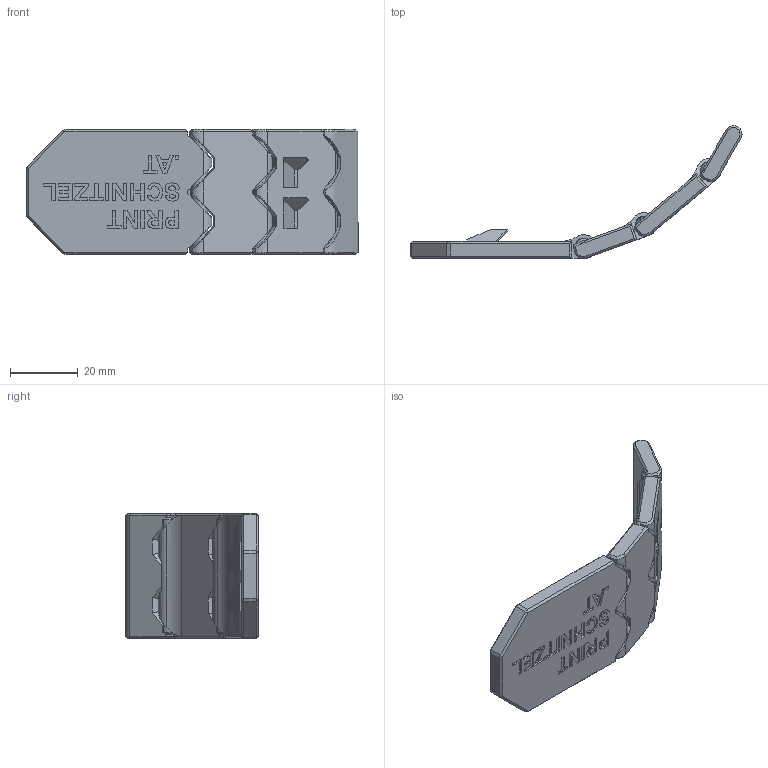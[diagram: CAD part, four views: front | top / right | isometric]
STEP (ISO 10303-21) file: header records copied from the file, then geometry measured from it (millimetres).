
FILE_DESCRIPTION(/* description */ (''),/* implementation_level */ '2;1');
FILE_NAME(/* name */ 'C:/Users/3dw/Google Drive/3dprinting/Konstruktion/Belt/Belt_Elements_Printschnitzel.step',/* time_stamp */ '2022-01-21T13:42:42+01:00',/* author */ (''),/* organization */ (''),/* preprocessor_version */ 'ST-DEVELOPER v18.1',/* originating_system */ 'Autodesk Translation Framework v10.13.0.1454',/* authorisation */ '');
FILE_SCHEMA (('AUTOMOTIVE_DESIGN { 1 0 10303 214 3 1 1 }'));
Length unit declared in the file: millimetre
Products named in the file (5): Elements-2-2; belt_link_vs2_grosses_Endstueck_alt_Schnalle-2.01-2; belt_link_vs2-2.01-2; belt_link_vs2_Verschluss-2.01-2; belt_link_vs2_kleines_Endstueck-2.01-2
Assembly tree (4 placements, depth 2):
  Elements-2-2
    belt_link_vs2_grosses_Endstueck_alt_Schnalle-2.01-2
    belt_link_vs2-2.01-2
    belt_link_vs2_Verschluss-2.01-2
    belt_link_vs2_kleines_Endstueck-2.01-2
Bounding box: 98.1 x 39.24 x 37 mm (x, y, z)
Volume: 19655.5 mm3; surface area: 12593.8 mm2
Topology: 4 solids, 4 shells, 566 faces, 1521 edges, 972 vertices
Faces by surface type: plane 372, bspline 77, cylinder 67, cone 50
Full cylindrical faces by diameter (mm): 3.6 x6, 4.2 x6, 4.8 x9, 5.19 x3, 5.2 x6
Entity records: 18448 total; most frequent: CARTESIAN_POINT 4576, ORIENTED_EDGE 3042, DIRECTION 2569, EDGE_CURVE 1521, LINE 1053, VECTOR 1053, VERTEX_POINT 972, AXIS2_PLACEMENT_3D 758
